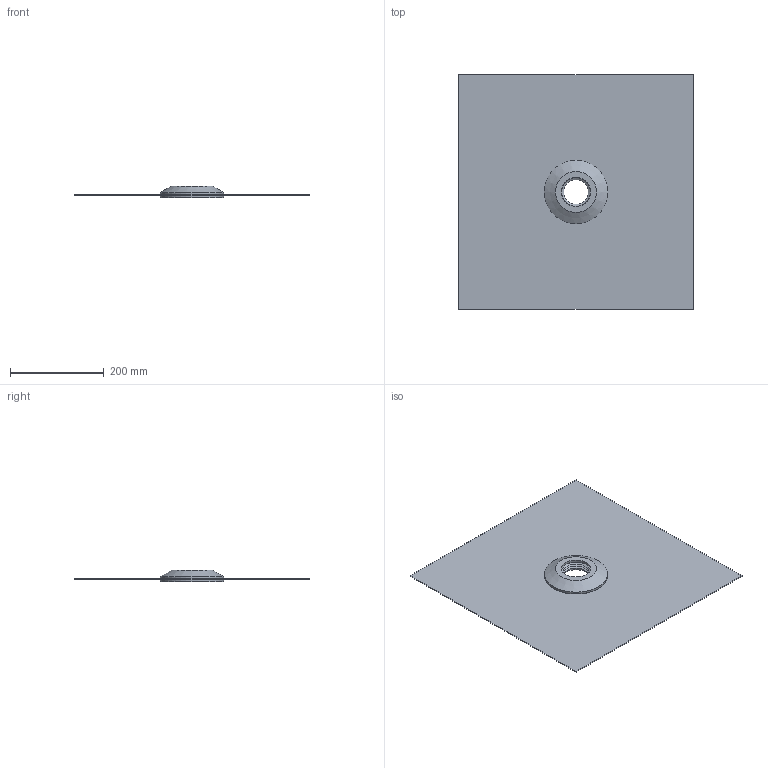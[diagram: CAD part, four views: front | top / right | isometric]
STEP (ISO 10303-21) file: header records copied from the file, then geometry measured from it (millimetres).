
FILE_DESCRIPTION(/* description */ (''),/* implementation_level */ '2;1');
FILE_NAME(/* name */ 'Z:\Geberit\Export\NewStep\Feucht_Ab_Dicht_ART\stp\363673.stp',/* time_stamp */ '2014-04-03T17:42:38+02:00',/* author */ ('bruh'),/* organization */ (''),/* preprocessor_version */ 'ST-DEVELOPER v15.2',/* originating_system */ 'Autodesk Inventor 2014',/* authorisation */ '');
FILE_SCHEMA (('AUTOMOTIVE_DESIGN { 1 0 10303 214 3 1 1 }'));
Length unit declared in the file: millimetre
Products named in the file (4): 363673_T1; 853.801.00.0; 853.806.00.0; 363673
Bounding box: 500 x 500 x 25 mm (x, y, z)
Volume: 534470.2 mm3; surface area: 558518 mm2
Topology: 3 solids, 3 shells, 29 faces, 51 edges, 32 vertices
Faces by surface type: plane 14, cylinder 8, cone 7
Full cylindrical faces by diameter (mm): 62 x2, 76 x2, 84 x2, 135 x2
Entity records: 754 total; most frequent: DIRECTION 132, CARTESIAN_POINT 104, ORIENTED_EDGE 72, AXIS2_PLACEMENT_3D 60, EDGE_LOOP 54, EDGE_CURVE 36, VERTEX_POINT 32, STYLED_ITEM 32
